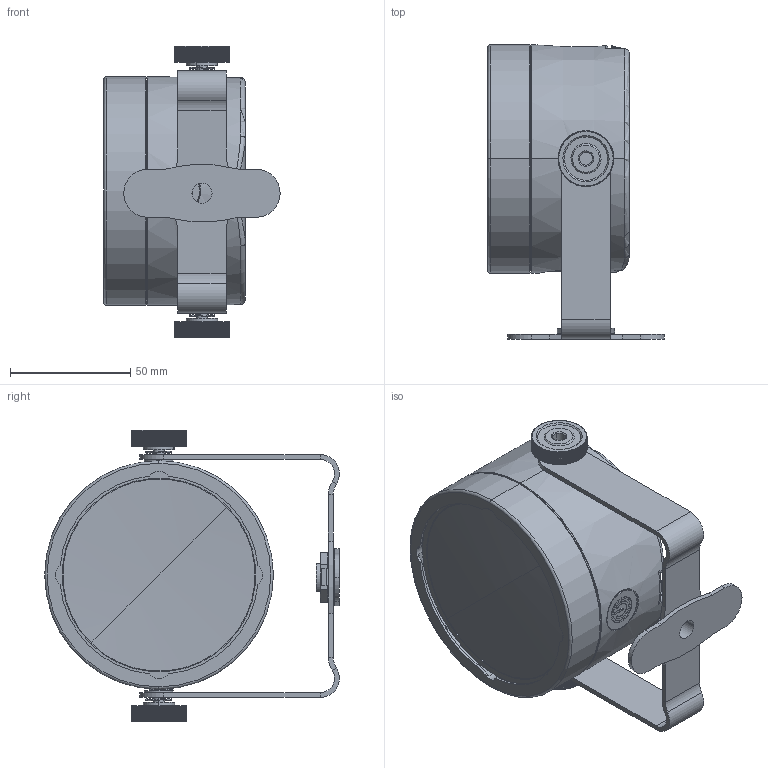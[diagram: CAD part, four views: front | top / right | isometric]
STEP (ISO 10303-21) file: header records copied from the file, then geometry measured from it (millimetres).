
FILE_DESCRIPTION (( 'STEP AP214' ), '1' );
FILE_NAME ('00000-AX3-0000.STEP', '2017-02-22T03:57:03', ( '' ), ( '' ), 'SwSTEP 2.0', 'SolidWorks 2016', '' );
FILE_SCHEMA (( 'AUTOMOTIVE_DESIGN' ));
Length unit declared in the file: millimetre
Products named in the file (34): ____-____4_3__ﾄｬﾈﾏｨｨ_; The silica gel ring; ____-____4_4__ﾄｬﾈﾏｨｨ_; Charging base; 00000-AX3-BRAKET; 38344-transparency cover; 00000-Anti-skid pads; cover; c-type-buckle; heat; 1-4inch Gasket; base; 1-4inch; Anti-skid pads; 00000-AX3-0000; nut-bracket; stop-washer; cruce-bracket; brack-hand; The magnet; KEYFOIL_R; The magnet -2; 38337_heat_1104; The magnet -1; T_NUT_ﾄｬﾈﾏｨｨ_; 1-4inch-Screw sleeve; HEAT_ASM_默认è_; button; ____-____15_ﾄｬﾈﾏｨｨ_; logo; ____-____4_2__ﾄｬﾈﾏｨｨ_; Battery; ____-____4_1__ﾄｬﾈﾏｨｨ_; ???M4X12
Assembly tree (40 placements, depth 4):
  00000-AX3-0000
    base
    heat
    cover
    38344-transparency cover
    Charging base
    The silica gel ring  x2
    ???M4X12
    Battery
    logo
    button
    1-4inch-Screw sleeve  x2
    The magnet
      The magnet -1
      The magnet -2
    00000-AX3-BRAKET
      brack-hand
      cruce-bracket
      stop-washer
      nut-bracket
      Anti-skid pads  x2
      1-4inch  x2
      1-4inch Gasket  x2
      c-type-buckle  x2
      00000-Anti-skid pads
    38337_heat_1104
      HEAT_ASM_默认è_
        ____-____4_4__ﾄｬﾈﾏｨｨ_
        ____-____4_3__ﾄｬﾈﾏｨｨ_
        ____-____4_1__ﾄｬﾈﾏｨｨ_
        ____-____4_2__ﾄｬﾈﾏｨｨ_
        ____-____15_ﾄｬﾈﾏｨｨ_
      T_NUT_ﾄｬﾈﾏｨｨ_  x2
    KEYFOIL_R
Bounding box: 73.3 x 122.5 x 121 mm (x, y, z)
Volume: 283927.7 mm3; surface area: 171143.7 mm2
Topology: 41 solids, 41 shells, 12588 faces, 31957 edges, 21170 vertices
Faces by surface type: plane 8245, cylinder 3658, cone 385, torus 191, bspline 103, sphere 6
Entity records: 331034 total; most frequent: CARTESIAN_POINT 116982, ORIENTED_EDGE 50656, DIRECTION 37548, EDGE_CURVE 25328, VERTEX_POINT 16770, AXIS2_PLACEMENT_3D 14119, EDGE_LOOP 11350, FACE_OUTER_BOUND 9954
